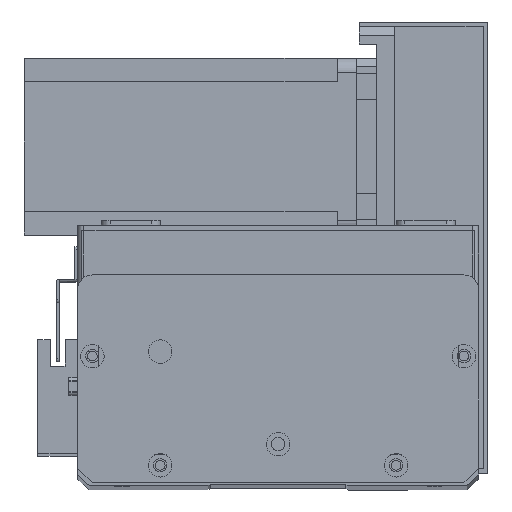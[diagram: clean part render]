
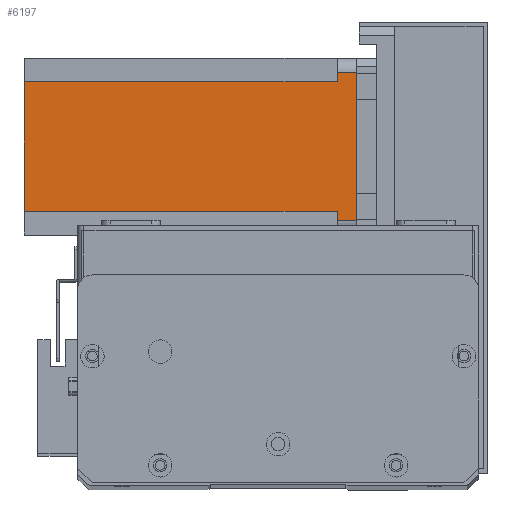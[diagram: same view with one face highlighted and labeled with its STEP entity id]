
A CAD part, top view. The second image highlights one B-rep face of the part: STEP entity #6197.
In plain terms, the highlighted planar face has unit normal (0, 0, 1) as drawn and (0, 1, 0) by its records, which use the part's own axes.
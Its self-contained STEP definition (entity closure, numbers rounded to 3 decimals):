
#242 = VERTEX_POINT ( 'NONE', #3035 ) ;
#739 = LINE ( 'NONE', #24963, #11476 ) ;
#1751 = CARTESIAN_POINT ( 'NONE',  ( 5., 60., -112.5 ) ) ;
#1930 = LINE ( 'NONE', #28155, #19217 ) ;
#1957 = ORIENTED_EDGE ( 'NONE', *, *, #26768, .F. ) ;
#2719 = ORIENTED_EDGE ( 'NONE', *, *, #25676, .F. ) ;
#2908 = VECTOR ( 'NONE', #19686, 1000. ) ;
#3035 = CARTESIAN_POINT ( 'NONE',  ( 8., 60., -112.5 ) ) ;
#3765 = VERTEX_POINT ( 'NONE', #16372 ) ;
#4714 = CARTESIAN_POINT ( 'NONE',  ( 0., 60., 0. ) ) ;
#5090 = LINE ( 'NONE', #28434, #2908 ) ;
#5794 = EDGE_LOOP ( 'NONE', ( #11488, #14131, #2719, #1957, #17883, #24751, #7486, #22120 ) ) ;
#6037 = DIRECTION ( 'NONE',  ( 0., 0., -1. ) ) ;
#6197 = ADVANCED_FACE ( 'NONE', ( #27345 ), #21008, .T. ) ;
#7032 = DIRECTION ( 'NONE',  ( -1., 0., 0. ) ) ;
#7267 = LINE ( 'NONE', #13041, #13238 ) ;
#7486 = ORIENTED_EDGE ( 'NONE', *, *, #27425, .T. ) ;
#7624 = VERTEX_POINT ( 'NONE', #20719 ) ;
#8320 = LINE ( 'NONE', #1751, #9034 ) ;
#9034 = VECTOR ( 'NONE', #15371, 1000. ) ;
#10818 = VERTEX_POINT ( 'NONE', #22432 ) ;
#11343 = CARTESIAN_POINT ( 'NONE',  ( 52., 60., -6.5 ) ) ;
#11476 = VECTOR ( 'NONE', #11747, 1000. ) ;
#11488 = ORIENTED_EDGE ( 'NONE', *, *, #21697, .F. ) ;
#11747 = DIRECTION ( 'NONE',  ( 0., 0., -1. ) ) ;
#13041 = CARTESIAN_POINT ( 'NONE',  ( 52., 60., -112.5 ) ) ;
#13238 = VECTOR ( 'NONE', #26322, 1000. ) ;
#13673 = VECTOR ( 'NONE', #26832, 1000. ) ;
#14131 = ORIENTED_EDGE ( 'NONE', *, *, #25475, .T. ) ;
#15371 = DIRECTION ( 'NONE',  ( 0., 0., 1. ) ) ;
#15698 = VECTOR ( 'NONE', #22490, 1000. ) ;
#15767 = CARTESIAN_POINT ( 'NONE',  ( 0., 60., -112.5 ) ) ;
#15930 = CARTESIAN_POINT ( 'NONE',  ( 5., 60., 0. ) ) ;
#16251 = LINE ( 'NONE', #4714, #27958 ) ;
#16372 = CARTESIAN_POINT ( 'NONE',  ( 55., 60., -6.5 ) ) ;
#16391 = LINE ( 'NONE', #15767, #15698 ) ;
#17170 = CARTESIAN_POINT ( 'NONE',  ( 52., 60., -6.5 ) ) ;
#17573 = VERTEX_POINT ( 'NONE', #25345 ) ;
#17574 = DIRECTION ( 'NONE',  ( 0., 0., 1. ) ) ;
#17883 = ORIENTED_EDGE ( 'NONE', *, *, #26930, .T. ) ;
#19217 = VECTOR ( 'NONE', #6037, 1000. ) ;
#19550 = LINE ( 'NONE', #11343, #13673 ) ;
#19686 = DIRECTION ( 'NONE',  ( -1., 0., 0. ) ) ;
#20719 = CARTESIAN_POINT ( 'NONE',  ( 5., 60., -6.5 ) ) ;
#21008 = PLANE ( 'NONE',  #25839 ) ;
#21159 = DIRECTION ( 'NONE',  ( 0., 1., 0. ) ) ;
#21697 = EDGE_CURVE ( 'NONE', #17573, #27622, #16251, .T. ) ;
#22120 = ORIENTED_EDGE ( 'NONE', *, *, #27451, .T. ) ;
#22432 = CARTESIAN_POINT ( 'NONE',  ( 52., 60., -112.5 ) ) ;
#22490 = DIRECTION ( 'NONE',  ( -1., 0., 0. ) ) ;
#22805 = CARTESIAN_POINT ( 'NONE',  ( 0., 60., -112.5 ) ) ;
#23576 = CARTESIAN_POINT ( 'NONE',  ( 8., 60., -6.5 ) ) ;
#24751 = ORIENTED_EDGE ( 'NONE', *, *, #27057, .F. ) ;
#24963 = CARTESIAN_POINT ( 'NONE',  ( 8., 60., -112.5 ) ) ;
#25345 = CARTESIAN_POINT ( 'NONE',  ( 55., 60., 0. ) ) ;
#25475 = EDGE_CURVE ( 'NONE', #17573, #3765, #1930, .T. ) ;
#25676 = EDGE_CURVE ( 'NONE', #26024, #3765, #19550, .T. ) ;
#25839 = AXIS2_PLACEMENT_3D ( 'NONE', #22805, #21159, #17574 ) ;
#26024 = VERTEX_POINT ( 'NONE', #17170 ) ;
#26322 = DIRECTION ( 'NONE',  ( 0., 0., 1. ) ) ;
#26565 = VERTEX_POINT ( 'NONE', #23576 ) ;
#26768 = EDGE_CURVE ( 'NONE', #10818, #26024, #7267, .T. ) ;
#26832 = DIRECTION ( 'NONE',  ( 1., 0., 0. ) ) ;
#26930 = EDGE_CURVE ( 'NONE', #10818, #242, #16391, .T. ) ;
#27057 = EDGE_CURVE ( 'NONE', #26565, #242, #739, .T. ) ;
#27345 = FACE_OUTER_BOUND ( 'NONE', #5794, .T. ) ;
#27425 = EDGE_CURVE ( 'NONE', #26565, #7624, #5090, .T. ) ;
#27451 = EDGE_CURVE ( 'NONE', #7624, #27622, #8320, .T. ) ;
#27622 = VERTEX_POINT ( 'NONE', #15930 ) ;
#27958 = VECTOR ( 'NONE', #7032, 1000. ) ;
#28155 = CARTESIAN_POINT ( 'NONE',  ( 55., 60., -112.5 ) ) ;
#28434 = CARTESIAN_POINT ( 'NONE',  ( 8., 60., -6.5 ) ) ;
